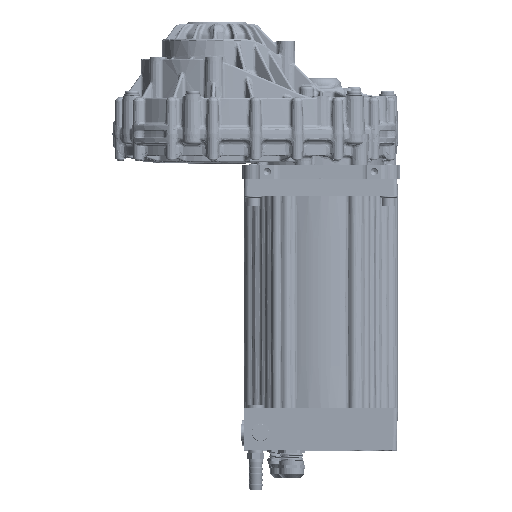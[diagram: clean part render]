
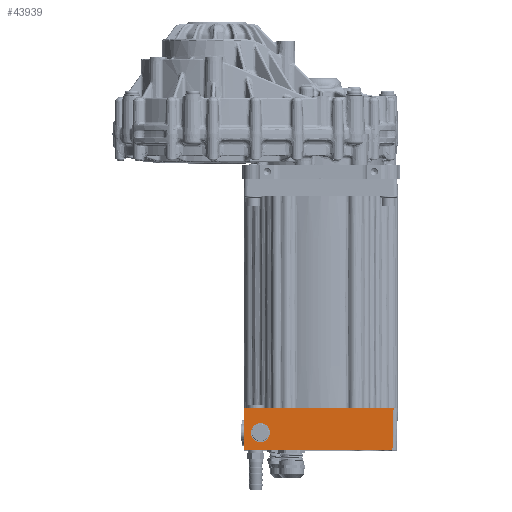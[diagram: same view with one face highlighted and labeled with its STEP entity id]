
A CAD part, top view. The second image highlights one B-rep face of the part: STEP entity #43939.
In plain terms, the highlighted planar face has unit normal (0, -0.026, 1).
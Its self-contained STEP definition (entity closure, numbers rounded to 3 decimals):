
#41423=CARTESIAN_POINT('Vertex',(31.,-368.1,90.001)) ;
#41426=CARTESIAN_POINT('Line Origine',(56.147,-368.1,90.001)) ;
#41430=CARTESIAN_POINT('Vertex',(81.294,-368.1,90.001)) ;
#43436=CARTESIAN_POINT('Control Point',(81.341,-368.1,90.001)) ;
#43437=CARTESIAN_POINT('Control Point',(81.325,-368.1,90.001)) ;
#43438=CARTESIAN_POINT('Control Point',(81.31,-368.1,90.001)) ;
#43439=CARTESIAN_POINT('Control Point',(81.294,-368.1,90.001)) ;
#43440=CARTESIAN_POINT('Vertex',(81.341,-368.1,90.001)) ;
#43813=CARTESIAN_POINT('Axis2P3D Location',(206.005,-368.1,90.001)) ;
#43818=CARTESIAN_POINT('Line Origine',(31.,-387.157,89.502)) ;
#43822=CARTESIAN_POINT('Vertex',(31.,-406.214,89.003)) ;
#43825=CARTESIAN_POINT('Line Origine',(31.148,-411.857,88.855)) ;
#43829=CARTESIAN_POINT('Vertex',(31.296,-417.5,88.707)) ;
#43832=CARTESIAN_POINT('Line Origine',(118.004,-417.5,88.707)) ;
#43836=CARTESIAN_POINT('Vertex',(204.712,-417.5,88.707)) ;
#43839=CARTESIAN_POINT('Line Origine',(205.359,-392.8,89.354)) ;
#43843=CARTESIAN_POINT('Vertex',(206.005,-368.1,90.001)) ;
#43846=CARTESIAN_POINT('Line Origine',(183.354,-368.1,90.001)) ;
#43850=CARTESIAN_POINT('Vertex',(160.703,-368.1,90.001)) ;
#43854=CARTESIAN_POINT('Control Point',(160.662,-368.1,90.001)) ;
#43855=CARTESIAN_POINT('Control Point',(160.67,-368.1,90.001)) ;
#43856=CARTESIAN_POINT('Control Point',(160.679,-368.1,90.001)) ;
#43857=CARTESIAN_POINT('Control Point',(160.687,-368.1,90.001)) ;
#43858=CARTESIAN_POINT('Control Point',(160.695,-368.1,90.001)) ;
#43859=CARTESIAN_POINT('Control Point',(160.703,-368.1,90.001)) ;
#43860=CARTESIAN_POINT('Vertex',(160.662,-368.1,90.001)) ;
#43863=CARTESIAN_POINT('Line Origine',(121.002,-368.1,90.001)) ;
#43880=CARTESIAN_POINT('Control Point',(50.503,-407.8,88.961)) ;
#43881=CARTESIAN_POINT('Control Point',(51.588,-407.8,88.961)) ;
#43882=CARTESIAN_POINT('Control Point',(52.673,-407.666,88.965)) ;
#43883=CARTESIAN_POINT('Control Point',(53.737,-407.398,88.972)) ;
#43884=CARTESIAN_POINT('Control Point',(55.776,-406.606,88.992)) ;
#43885=CARTESIAN_POINT('Control Point',(57.561,-405.342,89.025)) ;
#43886=CARTESIAN_POINT('Control Point',(58.371,-404.603,89.045)) ;
#43887=CARTESIAN_POINT('Control Point',(59.791,-402.939,89.088)) ;
#43888=CARTESIAN_POINT('Control Point',(60.765,-400.98,89.14)) ;
#43889=CARTESIAN_POINT('Control Point',(61.128,-399.945,89.167)) ;
#43890=CARTESIAN_POINT('Control Point',(61.591,-397.807,89.223)) ;
#43891=CARTESIAN_POINT('Control Point',(61.521,-395.62,89.28)) ;
#43892=CARTESIAN_POINT('Control Point',(61.35,-394.536,89.308)) ;
#43893=CARTESIAN_POINT('Control Point',(60.745,-392.434,89.364)) ;
#43894=CARTESIAN_POINT('Control Point',(59.647,-390.541,89.413)) ;
#43895=CARTESIAN_POINT('Control Point',(58.983,-389.668,89.436)) ;
#43896=CARTESIAN_POINT('Control Point',(57.455,-388.103,89.477)) ;
#43897=CARTESIAN_POINT('Control Point',(55.591,-386.956,89.507)) ;
#43898=CARTESIAN_POINT('Control Point',(54.593,-386.502,89.519)) ;
#43899=CARTESIAN_POINT('Control Point',(53.167,-386.055,89.531)) ;
#43900=CARTESIAN_POINT('Control Point',(51.695,-385.854,89.536)) ;
#43901=CARTESIAN_POINT('Control Point',(51.299,-385.818,89.537)) ;
#43902=CARTESIAN_POINT('Control Point',(50.901,-385.8,89.537)) ;
#43903=CARTESIAN_POINT('Control Point',(50.503,-385.8,89.537)) ;
#43904=CARTESIAN_POINT('Vertex',(50.503,-385.8,89.537)) ;
#43906=CARTESIAN_POINT('Vertex',(50.503,-407.8,88.961)) ;
#43910=CARTESIAN_POINT('Control Point',(50.503,-385.8,89.537)) ;
#43911=CARTESIAN_POINT('Control Point',(49.418,-385.8,89.537)) ;
#43912=CARTESIAN_POINT('Control Point',(48.332,-385.934,89.534)) ;
#43913=CARTESIAN_POINT('Control Point',(47.269,-386.202,89.527)) ;
#43914=CARTESIAN_POINT('Control Point',(45.23,-386.994,89.506)) ;
#43915=CARTESIAN_POINT('Control Point',(43.445,-388.258,89.473)) ;
#43916=CARTESIAN_POINT('Control Point',(42.635,-388.997,89.454)) ;
#43917=CARTESIAN_POINT('Control Point',(41.214,-390.661,89.41)) ;
#43918=CARTESIAN_POINT('Control Point',(40.241,-392.62,89.359)) ;
#43919=CARTESIAN_POINT('Control Point',(39.878,-393.655,89.332)) ;
#43920=CARTESIAN_POINT('Control Point',(39.415,-395.793,89.276)) ;
#43921=CARTESIAN_POINT('Control Point',(39.485,-397.98,89.218)) ;
#43922=CARTESIAN_POINT('Control Point',(39.656,-399.064,89.19)) ;
#43923=CARTESIAN_POINT('Control Point',(40.261,-401.166,89.135)) ;
#43924=CARTESIAN_POINT('Control Point',(41.359,-403.059,89.085)) ;
#43925=CARTESIAN_POINT('Control Point',(42.022,-403.932,89.062)) ;
#43926=CARTESIAN_POINT('Control Point',(43.551,-405.497,89.021)) ;
#43927=CARTESIAN_POINT('Control Point',(45.415,-406.644,88.991)) ;
#43928=CARTESIAN_POINT('Control Point',(46.413,-407.098,88.98)) ;
#43929=CARTESIAN_POINT('Control Point',(47.839,-407.545,88.968)) ;
#43930=CARTESIAN_POINT('Control Point',(49.31,-407.746,88.963)) ;
#43931=CARTESIAN_POINT('Control Point',(49.707,-407.782,88.962)) ;
#43932=CARTESIAN_POINT('Control Point',(50.105,-407.8,88.961)) ;
#43933=CARTESIAN_POINT('Control Point',(50.503,-407.8,88.961)) ;
#41427=DIRECTION('Vector Direction',(1.,0.,0.)) ;
#43814=DIRECTION('Axis2P3D Direction',(0.,-0.026,1.)) ;
#43815=DIRECTION('Axis2P3D XDirection',(-1.,0.,0.)) ;
#43819=DIRECTION('Vector Direction',(0.,-1.,-0.026)) ;
#43826=DIRECTION('Vector Direction',(0.026,-0.999,-0.026)) ;
#43833=DIRECTION('Vector Direction',(1.,0.,0.)) ;
#43840=DIRECTION('Vector Direction',(-0.026,-0.999,-0.026)) ;
#43847=DIRECTION('Vector Direction',(1.,0.,0.)) ;
#43864=DIRECTION('Vector Direction',(1.,0.,0.)) ;
#43816=AXIS2_PLACEMENT_3D('Plane Axis2P3D',#43813,#43814,#43815) ;
#43869=ORIENTED_EDGE('',*,*,#43824,.T.) ;
#43870=ORIENTED_EDGE('',*,*,#43831,.T.) ;
#43871=ORIENTED_EDGE('',*,*,#43838,.T.) ;
#43872=ORIENTED_EDGE('',*,*,#43845,.F.) ;
#43873=ORIENTED_EDGE('',*,*,#43852,.F.) ;
#43874=ORIENTED_EDGE('',*,*,#43862,.F.) ;
#43875=ORIENTED_EDGE('',*,*,#43867,.F.) ;
#43876=ORIENTED_EDGE('',*,*,#43442,.F.) ;
#43877=ORIENTED_EDGE('',*,*,#41432,.F.) ;
#43936=ORIENTED_EDGE('',*,*,#43908,.T.) ;
#43937=ORIENTED_EDGE('',*,*,#43934,.T.) ;
#43938=FACE_BOUND('',#43935,.T.) ;
#41428=VECTOR('Line Direction',#41427,1.) ;
#43820=VECTOR('Line Direction',#43819,1.) ;
#43827=VECTOR('Line Direction',#43826,1.) ;
#43834=VECTOR('Line Direction',#43833,1.) ;
#43841=VECTOR('Line Direction',#43840,1.) ;
#43848=VECTOR('Line Direction',#43847,1.) ;
#43865=VECTOR('Line Direction',#43864,1.) ;
#43939=ADVANCED_FACE('3U_MOTOR',(#43878,#43938),#43817,.T.) ;
#43435=B_SPLINE_CURVE_WITH_KNOTS('',3,(#43436,#43437,#43438,#43439),.UNSPECIFIED.,.F.,.U.,(4,4),(1.247,1.331),.UNSPECIFIED.) ;
#43853=B_SPLINE_CURVE_WITH_KNOTS('',5,(#43854,#43855,#43856,#43857,#43858,#43859),.UNSPECIFIED.,.F.,.U.,(6,6),(0.,0.058),.UNSPECIFIED.) ;
#43879=B_SPLINE_CURVE_WITH_KNOTS('',5,(#43880,#43881,#43882,#43883,#43884,#43885,#43886,#43887,#43888,#43889,#43890,#43891,#43892,#43893,#43894,#43895,#43896,#43897,#43898,#43899,#43900,#43901,#43902,#43903),.UNSPECIFIED.,.F.,.U.,(6,3,3,3,3,3,3,6),(0.,7.674,15.351,23.03,30.711,38.39,46.066,48.88),.UNSPECIFIED.) ;
#43909=B_SPLINE_CURVE_WITH_KNOTS('',5,(#43910,#43911,#43912,#43913,#43914,#43915,#43916,#43917,#43918,#43919,#43920,#43921,#43922,#43923,#43924,#43925,#43926,#43927,#43928,#43929,#43930,#43931,#43932,#43933),.UNSPECIFIED.,.F.,.U.,(6,3,3,3,3,3,3,6),(0.,7.674,15.351,23.03,30.711,38.39,46.066,48.88),.UNSPECIFIED.) ;
#41432=EDGE_CURVE('',#41424,#41431,#41429,.T.) ;
#43442=EDGE_CURVE('',#41431,#43441,#43435,.F.) ;
#43824=EDGE_CURVE('',#41424,#43823,#43821,.T.) ;
#43831=EDGE_CURVE('',#43823,#43830,#43828,.T.) ;
#43838=EDGE_CURVE('',#43830,#43837,#43835,.T.) ;
#43845=EDGE_CURVE('',#43844,#43837,#43842,.T.) ;
#43852=EDGE_CURVE('',#43851,#43844,#43849,.T.) ;
#43862=EDGE_CURVE('',#43861,#43851,#43853,.T.) ;
#43867=EDGE_CURVE('',#43441,#43861,#43866,.T.) ;
#43908=EDGE_CURVE('',#43905,#43907,#43879,.F.) ;
#43934=EDGE_CURVE('',#43907,#43905,#43909,.F.) ;
#43868=EDGE_LOOP('',(#43869,#43870,#43871,#43872,#43873,#43874,#43875,#43876,#43877)) ;
#43935=EDGE_LOOP('',(#43936,#43937)) ;
#43878=FACE_OUTER_BOUND('',#43868,.T.) ;
#41429=LINE('Line',#41426,#41428) ;
#43821=LINE('Line',#43818,#43820) ;
#43828=LINE('Line',#43825,#43827) ;
#43835=LINE('Line',#43832,#43834) ;
#43842=LINE('Line',#43839,#43841) ;
#43849=LINE('Line',#43846,#43848) ;
#43866=LINE('Line',#43863,#43865) ;
#43817=PLANE('Plane',#43816) ;
#41424=VERTEX_POINT('',#41423) ;
#41431=VERTEX_POINT('',#41430) ;
#43441=VERTEX_POINT('',#43440) ;
#43823=VERTEX_POINT('',#43822) ;
#43830=VERTEX_POINT('',#43829) ;
#43837=VERTEX_POINT('',#43836) ;
#43844=VERTEX_POINT('',#43843) ;
#43851=VERTEX_POINT('',#43850) ;
#43861=VERTEX_POINT('',#43860) ;
#43905=VERTEX_POINT('',#43904) ;
#43907=VERTEX_POINT('',#43906) ;
